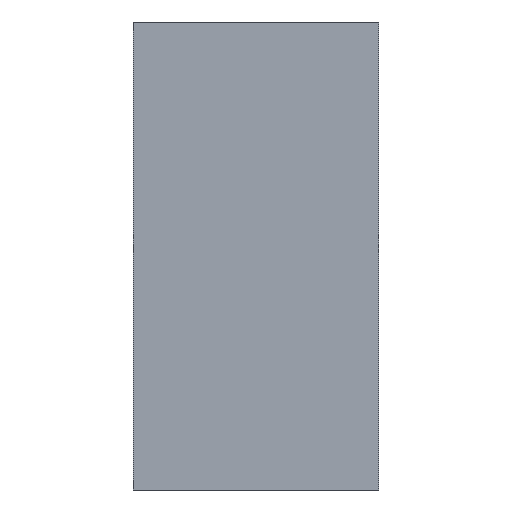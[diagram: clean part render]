
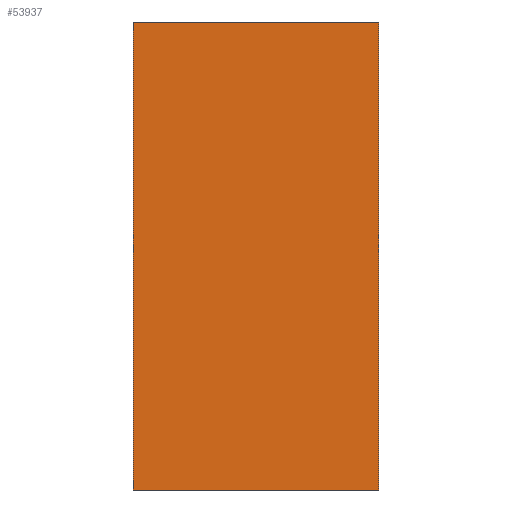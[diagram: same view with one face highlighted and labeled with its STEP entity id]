
A CAD part, left-side view. The second image highlights one B-rep face of the part: STEP entity #53937.
In plain terms, the highlighted planar face has unit normal (-1, 0, 0).
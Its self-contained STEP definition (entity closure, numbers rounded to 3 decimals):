
#1725 = ORIENTED_EDGE ( 'NONE', *, *, #28707, .F. ) ;
#3606 = CARTESIAN_POINT ( 'NONE',  ( -14.65, -9.3, -8.88 ) ) ;
#4081 = VECTOR ( 'NONE', #4827, 39.37 ) ;
#4827 = DIRECTION ( 'NONE',  ( 0., 1., 0. ) ) ;
#7369 = EDGE_CURVE ( 'NONE', #21126, #29812, #47241, .T. ) ;
#8163 = LINE ( 'NONE', #41127, #35544 ) ;
#10357 = DIRECTION ( 'NONE',  ( 0., 0., 1. ) ) ;
#11248 = DIRECTION ( 'NONE',  ( 0., 0., 1. ) ) ;
#20341 = CARTESIAN_POINT ( 'NONE',  ( -14.65, -9.3, 8.88 ) ) ;
#20544 = CARTESIAN_POINT ( 'NONE',  ( -14.65, -9.3, -8.88 ) ) ;
#21126 = VERTEX_POINT ( 'NONE', #20544 ) ;
#21579 = VECTOR ( 'NONE', #25576, 39.37 ) ;
#25576 = DIRECTION ( 'NONE',  ( 0., 1., 0. ) ) ;
#27212 = AXIS2_PLACEMENT_3D ( 'NONE', #36919, #42010, #11248 ) ;
#28247 = CARTESIAN_POINT ( 'NONE',  ( -14.65, 0., 8.88 ) ) ;
#28707 = EDGE_CURVE ( 'NONE', #29812, #53276, #8163, .T. ) ;
#29127 = EDGE_CURVE ( 'NONE', #65889, #53276, #60387, .T. ) ;
#29812 = VERTEX_POINT ( 'NONE', #41013 ) ;
#30040 = LINE ( 'NONE', #3606, #57208 ) ;
#31738 = PLANE ( 'NONE',  #27212 ) ;
#35544 = VECTOR ( 'NONE', #10357, 39.37 ) ;
#36919 = CARTESIAN_POINT ( 'NONE',  ( -14.65, -9.3, -8.88 ) ) ;
#39658 = DIRECTION ( 'NONE',  ( 0., 0., 1. ) ) ;
#41013 = CARTESIAN_POINT ( 'NONE',  ( -14.65, 0., -8.88 ) ) ;
#41127 = CARTESIAN_POINT ( 'NONE',  ( -14.65, 0., -8.88 ) ) ;
#42010 = DIRECTION ( 'NONE',  ( -1., 0., 0. ) ) ;
#47241 = LINE ( 'NONE', #56243, #21579 ) ;
#52112 = EDGE_LOOP ( 'NONE', ( #1725, #65767, #66503, #59373 ) ) ;
#53276 = VERTEX_POINT ( 'NONE', #28247 ) ;
#53937 = ADVANCED_FACE ( 'NONE', ( #64456 ), #31738, .T. ) ;
#56243 = CARTESIAN_POINT ( 'NONE',  ( -14.65, -9.3, -8.88 ) ) ;
#56629 = CARTESIAN_POINT ( 'NONE',  ( -14.65, -9.3, 8.88 ) ) ;
#57208 = VECTOR ( 'NONE', #39658, 39.37 ) ;
#59373 = ORIENTED_EDGE ( 'NONE', *, *, #29127, .T. ) ;
#60387 = LINE ( 'NONE', #20341, #4081 ) ;
#64456 = FACE_OUTER_BOUND ( 'NONE', #52112, .T. ) ;
#65767 = ORIENTED_EDGE ( 'NONE', *, *, #7369, .F. ) ;
#65889 = VERTEX_POINT ( 'NONE', #56629 ) ;
#66050 = EDGE_CURVE ( 'NONE', #21126, #65889, #30040, .T. ) ;
#66503 = ORIENTED_EDGE ( 'NONE', *, *, #66050, .T. ) ;
